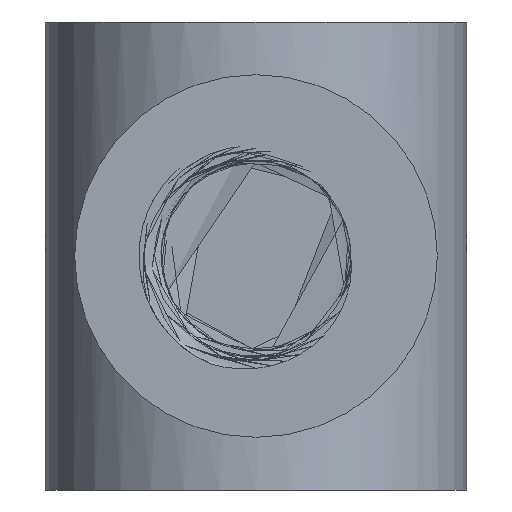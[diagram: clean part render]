
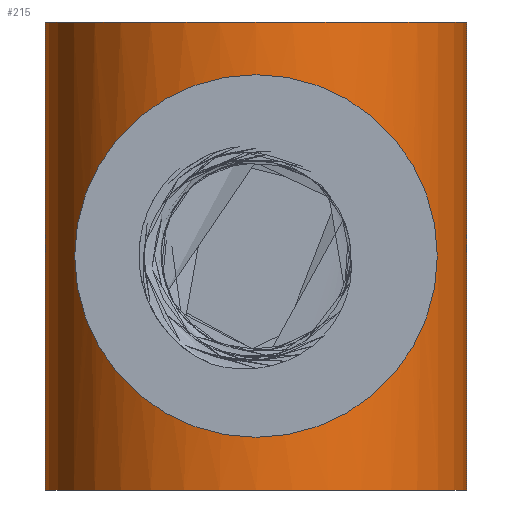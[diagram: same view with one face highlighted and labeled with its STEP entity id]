
A CAD part, left-side view. The second image highlights one B-rep face of the part: STEP entity #215.
In plain terms, the highlighted cylindrical face has radius 3.6 mm (diameter 7.2 mm), a full revolution.
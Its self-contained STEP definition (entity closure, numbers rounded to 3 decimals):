
#27=CYLINDRICAL_SURFACE('',#249,3.6);
#36=B_SPLINE_CURVE_WITH_KNOTS('',3,(#358,#359,#360,#361,#362,#363,#364,
#365,#366,#367,#368,#369,#370,#371,#372,#373,#374,#375,#376),
 .UNSPECIFIED.,.T.,.F.,(1,1,1,1,1,1,1,1,1,1,1,1,1,1,1,1,1,1,1,1,1,1,1),
(-0.004,-0.002,-0.001,0.,
0.001,0.002,0.004,0.005,
0.006,0.007,0.008,0.01,
0.011,0.012,0.013,0.014,
0.016,0.017,0.018,0.019,
0.02,0.022,0.023),.UNSPECIFIED.);
#46=ORIENTED_EDGE('',*,*,#93,.T.);
#47=ORIENTED_EDGE('',*,*,#94,.T.);
#48=ORIENTED_EDGE('',*,*,#95,.F.);
#93=EDGE_CURVE('',#117,#117,#36,.T.);
#94=EDGE_CURVE('',#118,#118,#135,.T.);
#95=EDGE_CURVE('',#119,#119,#136,.T.);
#117=VERTEX_POINT('',#377);
#118=VERTEX_POINT('',#380);
#119=VERTEX_POINT('',#382);
#135=CIRCLE('',#250,3.6);
#136=CIRCLE('',#251,3.6);
#150=EDGE_LOOP('',(#46));
#151=EDGE_LOOP('',(#47));
#152=EDGE_LOOP('',(#48));
#180=FACE_BOUND('',#150,.T.);
#181=FACE_BOUND('',#151,.T.);
#182=FACE_BOUND('',#152,.T.);
#215=ADVANCED_FACE('',(#180,#181,#182),#27,.T.);
#249=AXIS2_PLACEMENT_3D('',#378,#287,#288);
#250=AXIS2_PLACEMENT_3D('',#379,#289,#290);
#251=AXIS2_PLACEMENT_3D('',#381,#291,#292);
#287=DIRECTION('',(0.,0.,-1.));
#288=DIRECTION('',(-1.,0.,0.));
#289=DIRECTION('',(0.,0.,-1.));
#290=DIRECTION('',(1.,0.,0.));
#291=DIRECTION('',(0.,0.,-1.));
#292=DIRECTION('',(1.,0.,0.));
#358=CARTESIAN_POINT('',(27.747,1.213,2.721));
#359=CARTESIAN_POINT('',(27.527,-0.003,2.988));
#360=CARTESIAN_POINT('',(27.744,-1.202,2.725));
#361=CARTESIAN_POINT('',(28.239,-2.118,2.073));
#362=CARTESIAN_POINT('',(28.813,-2.722,1.193));
#363=CARTESIAN_POINT('',(29.192,-2.987,0.006));
#364=CARTESIAN_POINT('',(28.82,-2.728,-1.18));
#365=CARTESIAN_POINT('',(28.244,-2.126,-2.065));
#366=CARTESIAN_POINT('',(27.749,-1.215,-2.719));
#367=CARTESIAN_POINT('',(27.528,-0.016,-2.988));
#368=CARTESIAN_POINT('',(27.739,1.193,-2.731));
#369=CARTESIAN_POINT('',(28.236,2.115,-2.077));
#370=CARTESIAN_POINT('',(28.811,2.72,-1.198));
#371=CARTESIAN_POINT('',(29.193,2.988,-0.008));
#372=CARTESIAN_POINT('',(28.82,2.728,1.181));
#373=CARTESIAN_POINT('',(28.242,2.123,2.068));
#374=CARTESIAN_POINT('',(27.747,1.213,2.721));
#375=CARTESIAN_POINT('',(27.527,-0.003,2.988));
#376=CARTESIAN_POINT('',(27.744,-1.202,2.725));
#377=CARTESIAN_POINT('',(27.6,0.,2.9));
#378=CARTESIAN_POINT('',(31.2,0.,4.));
#379=CARTESIAN_POINT('',(31.2,0.,4.));
#380=CARTESIAN_POINT('',(34.8,0.,4.));
#381=CARTESIAN_POINT('',(31.2,0.,-4.));
#382=CARTESIAN_POINT('',(34.8,0.,-4.));
